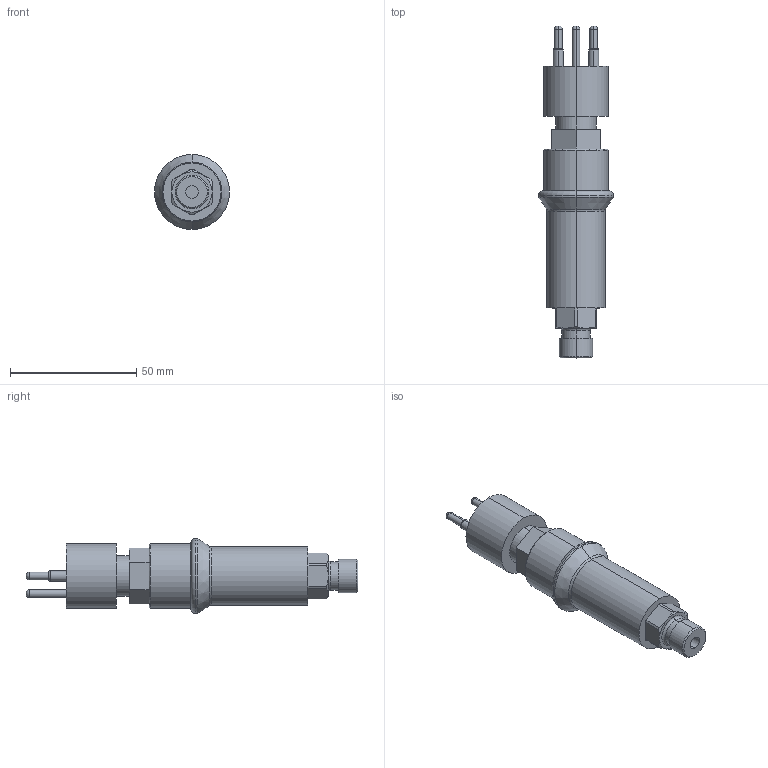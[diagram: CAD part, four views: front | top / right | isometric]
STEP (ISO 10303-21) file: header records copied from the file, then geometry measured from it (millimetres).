
FILE_DESCRIPTION (( 'STEP AP214' ), '1' );
FILE_NAME ('D-0166-DOD iss 1.STEP', '2021-07-08T12:44:35', ( '' ), ( '' ), 'SwSTEP 2.0', 'SolidWorks 2021', '' );
FILE_SCHEMA (( 'AUTOMOTIVE_DESIGN' ));
Length unit declared in the file: millimetre
Products named in the file (4): D-0166-DOD iss 1; New Cover for Assembly Drawing; Wetcon Connector - long version; D-0096-M iss 2 - for Assembly Drawing
Assembly tree (3 placements, depth 2):
  D-0166-DOD iss 1
    D-0096-M iss 2 - for Assembly Drawing
    Wetcon Connector - long version
    New Cover for Assembly Drawing
Bounding box: 29.71 x 131.46 x 29.71 mm (x, y, z)
Volume: 34764.6 mm3; surface area: 17773.8 mm2
Topology: 3 solids, 3 shells, 153 faces, 320 edges, 194 vertices
Faces by surface type: cylinder 59, plane 39, torus 34, cone 21
Entity records: 5288 total; most frequent: DIRECTION 830, CARTESIAN_POINT 741, ORIENTED_EDGE 640, AXIS2_PLACEMENT_3D 363, EDGE_CURVE 320, CIRCLE 204, VERTEX_POINT 194, EDGE_LOOP 178
